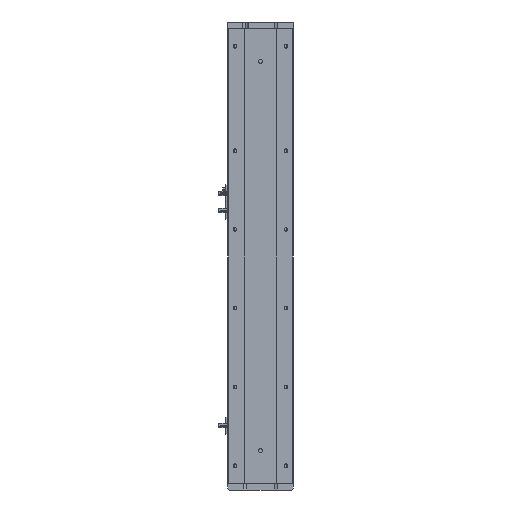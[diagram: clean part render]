
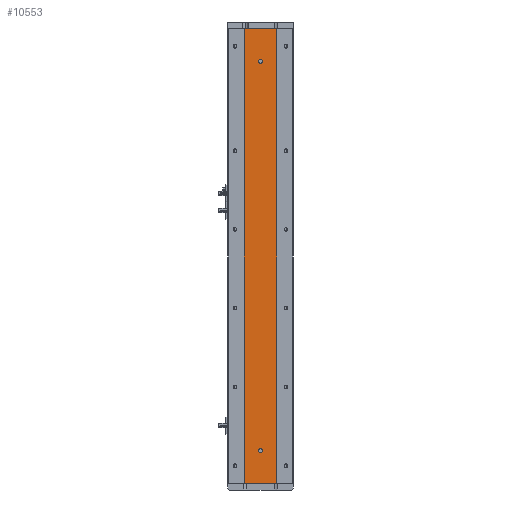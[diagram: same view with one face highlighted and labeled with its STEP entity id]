
A CAD part, left-side view. The second image highlights one B-rep face of the part: STEP entity #10553.
In plain terms, the highlighted planar face has unit normal (-1, 0, 0).
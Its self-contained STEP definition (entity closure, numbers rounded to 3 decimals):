
#479 = CARTESIAN_POINT ( 'NONE',  ( -18.926, -24.785, 693. ) ) ;
#497 = DIRECTION ( 'NONE',  ( 1., 0., 0. ) ) ;
#941 = DIRECTION ( 'NONE',  ( 0., 0., 1. ) ) ;
#1128 = EDGE_CURVE ( 'NONE', #3654, #19978, #15897, .T. ) ;
#1185 = AXIS2_PLACEMENT_3D ( 'NONE', #35309, #18790, #2350 ) ;
#1235 = CIRCLE ( 'NONE', #26781, 3. ) ;
#1574 = DIRECTION ( 'NONE',  ( 0., -1., 0. ) ) ;
#1779 = ORIENTED_EDGE ( 'NONE', *, *, #27804, .F. ) ;
#2350 = DIRECTION ( 'NONE',  ( 0., 0., 1. ) ) ;
#3086 = CARTESIAN_POINT ( 'NONE',  ( -18.926, 0., 643. ) ) ;
#3288 = VERTEX_POINT ( 'NONE', #479 ) ;
#3415 = CARTESIAN_POINT ( 'NONE',  ( -18.926, 24.785, 693. ) ) ;
#3654 = VERTEX_POINT ( 'NONE', #26673 ) ;
#3903 = CARTESIAN_POINT ( 'NONE',  ( -18.926, 0., 50. ) ) ;
#3953 = ORIENTED_EDGE ( 'NONE', *, *, #15464, .T. ) ;
#4413 = VECTOR ( 'NONE', #26940, 1000. ) ;
#4768 = AXIS2_PLACEMENT_3D ( 'NONE', #3086, #22282, #5863 ) ;
#4900 = EDGE_LOOP ( 'NONE', ( #3953, #14665, #29320, #25952 ) ) ;
#5171 = CARTESIAN_POINT ( 'NONE',  ( -18.926, 0., 646. ) ) ;
#5863 = DIRECTION ( 'NONE',  ( 0., 0., 1. ) ) ;
#6249 = EDGE_LOOP ( 'NONE', ( #30765, #1779 ) ) ;
#6538 = CARTESIAN_POINT ( 'NONE',  ( -18.926, 0., 53. ) ) ;
#6665 = DIRECTION ( 'NONE',  ( 0., 0., 1. ) ) ;
#8205 = VERTEX_POINT ( 'NONE', #21440 ) ;
#8852 = CARTESIAN_POINT ( 'NONE',  ( -18.926, 0., 640. ) ) ;
#9104 = DIRECTION ( 'NONE',  ( 0., 0., -1. ) ) ;
#10553 = ADVANCED_FACE ( 'NONE', ( #23965, #16616, #31303 ), #33332, .F. ) ;
#11734 = CARTESIAN_POINT ( 'NONE',  ( -18.926, -24.785, 693. ) ) ;
#12046 = EDGE_LOOP ( 'NONE', ( #31646, #16515 ) ) ;
#13285 = CIRCLE ( 'NONE', #4768, 3. ) ;
#13323 = LINE ( 'NONE', #18007, #34435 ) ;
#14665 = ORIENTED_EDGE ( 'NONE', *, *, #21699, .F. ) ;
#15464 = EDGE_CURVE ( 'NONE', #19978, #16139, #13323, .T. ) ;
#15897 = LINE ( 'NONE', #3415, #22361 ) ;
#16139 = VERTEX_POINT ( 'NONE', #18801 ) ;
#16515 = ORIENTED_EDGE ( 'NONE', *, *, #18743, .F. ) ;
#16616 = FACE_BOUND ( 'NONE', #6249, .T. ) ;
#16921 = CARTESIAN_POINT ( 'NONE',  ( -18.926, 24.785, 693. ) ) ;
#17381 = DIRECTION ( 'NONE',  ( -1., 0., 0. ) ) ;
#17957 = EDGE_CURVE ( 'NONE', #3654, #3288, #26342, .T. ) ;
#18007 = CARTESIAN_POINT ( 'NONE',  ( -18.926, 24.785, 0. ) ) ;
#18743 = EDGE_CURVE ( 'NONE', #31865, #31093, #13285, .T. ) ;
#18790 = DIRECTION ( 'NONE',  ( -1., 0., 0. ) ) ;
#18801 = CARTESIAN_POINT ( 'NONE',  ( -18.926, -24.785, 0. ) ) ;
#19033 = AXIS2_PLACEMENT_3D ( 'NONE', #33909, #17381, #941 ) ;
#19671 = DIRECTION ( 'NONE',  ( 0., 0., -1. ) ) ;
#19978 = VERTEX_POINT ( 'NONE', #25459 ) ;
#21440 = CARTESIAN_POINT ( 'NONE',  ( -18.926, 0., 47. ) ) ;
#21699 = EDGE_CURVE ( 'NONE', #3288, #16139, #30964, .T. ) ;
#22282 = DIRECTION ( 'NONE',  ( -1., 0., 0. ) ) ;
#22361 = VECTOR ( 'NONE', #28205, 1000. ) ;
#23082 = DIRECTION ( 'NONE',  ( -1., 0., 0. ) ) ;
#23624 = VECTOR ( 'NONE', #9104, 1000. ) ;
#23965 = FACE_BOUND ( 'NONE', #12046, .T. ) ;
#24139 = CARTESIAN_POINT ( 'NONE',  ( -18.926, 24.785, 693. ) ) ;
#25089 = CIRCLE ( 'NONE', #19033, 3. ) ;
#25459 = CARTESIAN_POINT ( 'NONE',  ( -18.926, 24.785, 0. ) ) ;
#25952 = ORIENTED_EDGE ( 'NONE', *, *, #1128, .T. ) ;
#26342 = LINE ( 'NONE', #24139, #4413 ) ;
#26673 = CARTESIAN_POINT ( 'NONE',  ( -18.926, 24.785, 693. ) ) ;
#26781 = AXIS2_PLACEMENT_3D ( 'NONE', #3903, #23082, #6665 ) ;
#26940 = DIRECTION ( 'NONE',  ( 0., -1., 0. ) ) ;
#26946 = AXIS2_PLACEMENT_3D ( 'NONE', #16921, #497, #19671 ) ;
#27191 = EDGE_CURVE ( 'NONE', #31093, #31865, #32780, .T. ) ;
#27804 = EDGE_CURVE ( 'NONE', #8205, #32659, #1235, .T. ) ;
#28205 = DIRECTION ( 'NONE',  ( 0., 0., -1. ) ) ;
#29320 = ORIENTED_EDGE ( 'NONE', *, *, #17957, .F. ) ;
#30765 = ORIENTED_EDGE ( 'NONE', *, *, #31362, .F. ) ;
#30964 = LINE ( 'NONE', #11734, #23624 ) ;
#31093 = VERTEX_POINT ( 'NONE', #5171 ) ;
#31303 = FACE_OUTER_BOUND ( 'NONE', #4900, .T. ) ;
#31362 = EDGE_CURVE ( 'NONE', #32659, #8205, #25089, .T. ) ;
#31646 = ORIENTED_EDGE ( 'NONE', *, *, #27191, .F. ) ;
#31865 = VERTEX_POINT ( 'NONE', #8852 ) ;
#32659 = VERTEX_POINT ( 'NONE', #6538 ) ;
#32780 = CIRCLE ( 'NONE', #1185, 3. ) ;
#33332 = PLANE ( 'NONE',  #26946 ) ;
#33909 = CARTESIAN_POINT ( 'NONE',  ( -18.926, 0., 50. ) ) ;
#34435 = VECTOR ( 'NONE', #1574, 1000. ) ;
#35309 = CARTESIAN_POINT ( 'NONE',  ( -18.926, 0., 643. ) ) ;
